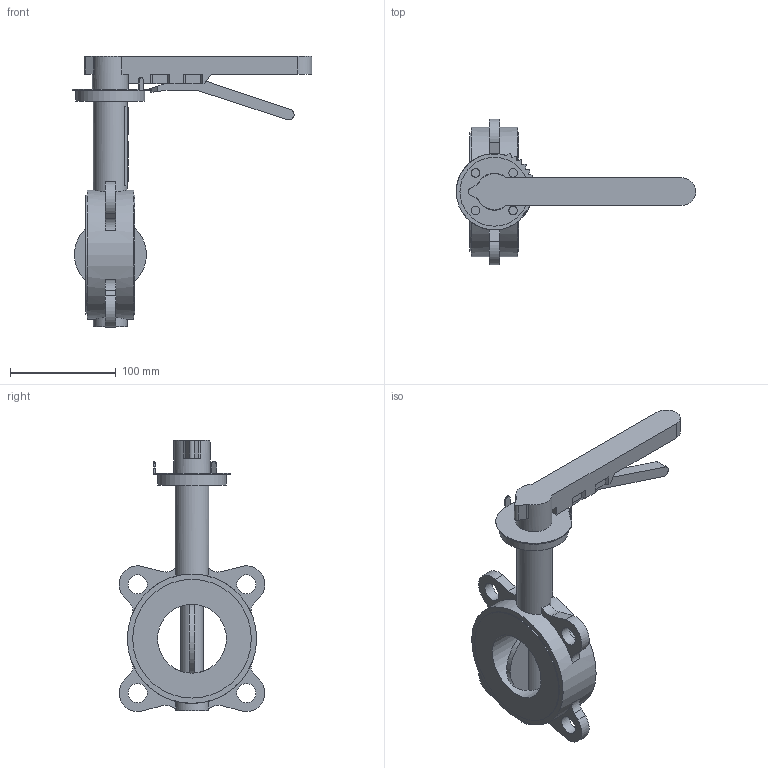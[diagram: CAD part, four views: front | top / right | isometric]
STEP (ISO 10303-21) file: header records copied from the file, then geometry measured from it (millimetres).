
FILE_DESCRIPTION(('STEP AP203'), '1');
FILE_NAME('青蜮铕 015WDN65', '', ('UNSPECIFIED'), ('UNSPECIFIED'), 'ASCON STEP Converter 1.6', 'ASCON Math Kernel', '');
FILE_SCHEMA(('CONFIG_CONTROL_DESIGN'));
Length unit declared in the file: millimetre
Bounding box: 225.97 x 137.4 x 255.7 mm (x, y, z)
Volume: 138340.1 mm3; surface area: 115734.4 mm2
Topology: 1 solids, 2 shells, 722 faces, 2132 edges, 1376 vertices
Faces by surface type: cylinder 485, plane 237
Full cylindrical faces by diameter (mm): 8 x4, 12.6 x1, 18 x4, 32 x2, 34 x1, 35 x1, 65 x2, 112 x2, 122 x1
Entity records: 31533 total; most frequent: CARTESIAN_POINT 5597, DIRECTION 4530, ORIENTED_EDGE 4167, EDGE_CURVE 2115, AXIS2_PLACEMENT_3D 1735, VERTEX_POINT 1376, LINE 1060, VECTOR 1060
